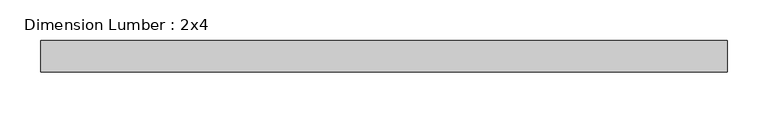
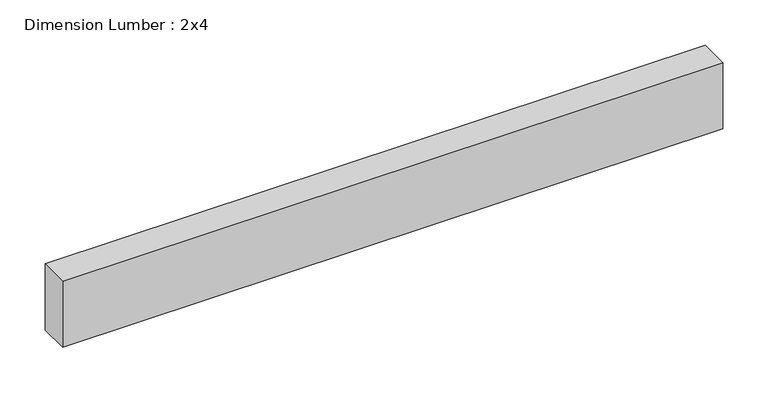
"""IFC4 building model written with IfcOpenShell, lengths in millimetres: beam geometry, Dimension Lumber : 2x4."""

from ifc_helpers import new_model, si_unit, frame, origin, place, context, project, spatial, polyline, outline, extrude, source, transform, mapped, element, save


def dimension_lumber_2x4_503074f3(model_context):
    return source(origin(), model_context, "Body", "SweptSolid", [
        extrude(outline(polyline([(419.0999994, 19.05), (419.0999994, -19.05), (-419.1, -19.05), (-419.1, 19.05), (419.0999994, 19.05)])), frame((0.0, 0.0, -44.45), z_axis=(0.0, 0.0, 1.0), x_axis=(1.0, 0.0, 0.0)), (0.0, 0.0, 1.0), 88.9),
    ])


if __name__ == "__main__":
    model = new_model("IFC4")
    model_context = context("Model", 3, world=origin())
    ifc_project = project(units=[si_unit("LENGTHUNIT", "METRE", prefix="MILLI")], contexts=[model_context])
    site = spatial("IfcSite", under=ifc_project)
    building = spatial("IfcBuilding", under=site)
    placement = place(None, origin())
    dimension_lumber_2x4_shape = dimension_lumber_2x4_503074f3(model_context)
    element("IfcBeam", 1, ObjectType="Dimension Lumber : 2x4", at=placement, inside=building, context=model_context, shape_type="MappedRepresentation", body=[
        mapped(dimension_lumber_2x4_shape, transform((0.0, 0.0, 0.0), x_axis=(1.0, 0.0, 0.0), y_axis=(0.0, 1.0, 0.0), z_axis=(0.0, 0.0, 1.0))),
    ])
    save(model, "model.ifc")
